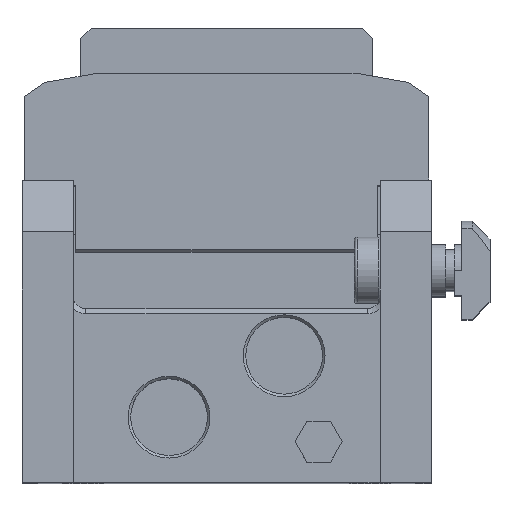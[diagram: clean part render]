
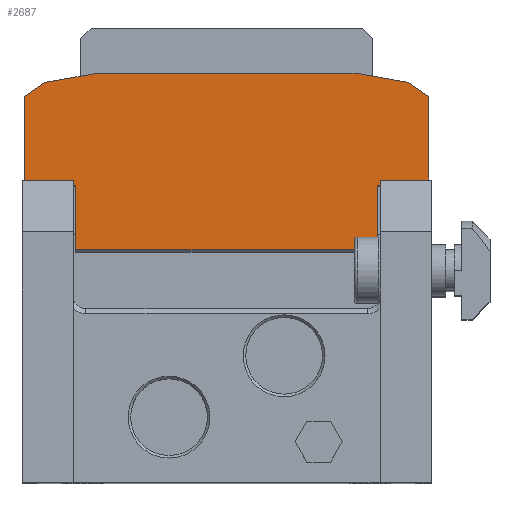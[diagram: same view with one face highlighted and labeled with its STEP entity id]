
A CAD part, top view. The second image highlights one B-rep face of the part: STEP entity #2687.
In plain terms, the highlighted planar face has unit normal (0, 0, 1).
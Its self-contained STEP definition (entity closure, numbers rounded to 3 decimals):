
#205 = DIRECTION ( 'NONE',  ( 1., 0., 0. ) ) ;
#317 = CARTESIAN_POINT ( 'NONE',  ( 39.5, 16.5, 118.2 ) ) ;
#2003 = VERTEX_POINT ( 'NONE', #23549 ) ;
#2078 = CARTESIAN_POINT ( 'NONE',  ( 25.5, 38.5, 118.2 ) ) ;
#2084 = VECTOR ( 'NONE', #9586, 1000. ) ;
#2237 = LINE ( 'NONE', #9608, #2084 ) ;
#2422 = CARTESIAN_POINT ( 'NONE',  ( -29.5, 16.5, 118.2 ) ) ;
#2424 = VECTOR ( 'NONE', #10666, 1000. ) ;
#2472 = LINE ( 'NONE', #10694, #2424 ) ;
#2687 = ADVANCED_FACE ( 'NONE', ( #9601 ), #28886, .F. ) ;
#2782 = EDGE_CURVE ( 'NONE', #24344, #15556, #18312, .T. ) ;
#3035 = VECTOR ( 'NONE', #4529, 1000. ) ;
#3138 = VERTEX_POINT ( 'NONE', #24832 ) ;
#3362 = DIRECTION ( 'NONE',  ( 1., 0., 0. ) ) ;
#3366 = CARTESIAN_POINT ( 'NONE',  ( 39.5, 16.5, 118.2 ) ) ;
#3559 = EDGE_CURVE ( 'NONE', #3138, #26692, #26061, .T. ) ;
#3910 = DIRECTION ( 'NONE',  ( -1., 0., 0. ) ) ;
#4141 = CARTESIAN_POINT ( 'NONE',  ( -25.5, 38.5, 118.2 ) ) ;
#4523 = CARTESIAN_POINT ( 'NONE',  ( -38.5, 3.5, 118.2 ) ) ;
#4529 = DIRECTION ( 'NONE',  ( 0.707, -0.707, 0. ) ) ;
#4847 = DIRECTION ( 'NONE',  ( 1., 0., 0. ) ) ;
#4851 = ORIENTED_EDGE ( 'NONE', *, *, #2782, .T. ) ;
#4892 = CARTESIAN_POINT ( 'NONE',  ( 39.5, 38.5, 118.2 ) ) ;
#5101 = AXIS2_PLACEMENT_3D ( 'NONE', #27372, #27159, #27059 ) ;
#5284 = DIRECTION ( 'NONE',  ( 0., -1., 0. ) ) ;
#5359 = CARTESIAN_POINT ( 'NONE',  ( -39.5, 38.5, 118.2 ) ) ;
#5400 = LINE ( 'NONE', #22324, #5487 ) ;
#5487 = VECTOR ( 'NONE', #22285, 1000. ) ;
#5581 = VERTEX_POINT ( 'NONE', #22080 ) ;
#5751 = ORIENTED_EDGE ( 'NONE', *, *, #11096, .T. ) ;
#5902 = CARTESIAN_POINT ( 'NONE',  ( -39.5, 3.5, 118.2 ) ) ;
#5981 = ORIENTED_EDGE ( 'NONE', *, *, #17939, .F. ) ;
#6174 = CARTESIAN_POINT ( 'NONE',  ( -29.5, 4., 118.2 ) ) ;
#6426 = EDGE_CURVE ( 'NONE', #24925, #20907, #20717, .T. ) ;
#6965 = VECTOR ( 'NONE', #22113, 1000. ) ;
#7333 = VERTEX_POINT ( 'NONE', #29000 ) ;
#7400 = EDGE_CURVE ( 'NONE', #3138, #16561, #16515, .T. ) ;
#7515 = EDGE_CURVE ( 'NONE', #5581, #28181, #16043, .T. ) ;
#7822 = VERTEX_POINT ( 'NONE', #24868 ) ;
#8054 = DIRECTION ( 'NONE',  ( 0., 1., 0. ) ) ;
#8454 = CARTESIAN_POINT ( 'NONE',  ( 25.5, 38.5, 118.2 ) ) ;
#8459 = CARTESIAN_POINT ( 'NONE',  ( -39.5, 4.5, 118.2 ) ) ;
#8757 = DIRECTION ( 'NONE',  ( -0.985, 0.174, 0. ) ) ;
#9096 = EDGE_CURVE ( 'NONE', #16561, #20907, #10181, .T. ) ;
#9586 = DIRECTION ( 'NONE',  ( 0.707, 0.707, 0. ) ) ;
#9601 = FACE_OUTER_BOUND ( 'NONE', #17004, .T. ) ;
#9608 = CARTESIAN_POINT ( 'NONE',  ( 38.5, 3.5, 118.2 ) ) ;
#9657 = ORIENTED_EDGE ( 'NONE', *, *, #10202, .T. ) ;
#9924 = VECTOR ( 'NONE', #18810, 1000. ) ;
#9937 = CARTESIAN_POINT ( 'NONE',  ( 39.5, 38.5, 118.2 ) ) ;
#10181 = LINE ( 'NONE', #3366, #10295 ) ;
#10202 = EDGE_CURVE ( 'NONE', #2003, #5581, #5400, .T. ) ;
#10295 = VECTOR ( 'NONE', #3362, 1000. ) ;
#10317 = CARTESIAN_POINT ( 'NONE',  ( 29.5, 3.5, 118.2 ) ) ;
#10666 = DIRECTION ( 'NONE',  ( -0.819, -0.574, 0. ) ) ;
#10675 = ORIENTED_EDGE ( 'NONE', *, *, #7515, .T. ) ;
#10694 = CARTESIAN_POINT ( 'NONE',  ( -39.5, 33.968, 118.2 ) ) ;
#10747 = CARTESIAN_POINT ( 'NONE',  ( 29.5, 4., 118.2 ) ) ;
#10978 = EDGE_CURVE ( 'NONE', #21779, #7822, #2472, .T. ) ;
#10999 = CARTESIAN_POINT ( 'NONE',  ( 37.5, 3.5, 118.2 ) ) ;
#11090 = VECTOR ( 'NONE', #5284, 1000. ) ;
#11096 = EDGE_CURVE ( 'NONE', #12893, #25196, #2237, .T. ) ;
#11571 = CARTESIAN_POINT ( 'NONE',  ( -38.5, 3.5, 118.2 ) ) ;
#11657 = VECTOR ( 'NONE', #8054, 1000. ) ;
#11810 = LINE ( 'NONE', #5359, #11090 ) ;
#12216 = CARTESIAN_POINT ( 'NONE',  ( -37.5, 3.5, 118.2 ) ) ;
#12447 = DIRECTION ( 'NONE',  ( 0., 1., 0. ) ) ;
#12893 = VERTEX_POINT ( 'NONE', #17545 ) ;
#13260 = CARTESIAN_POINT ( 'NONE',  ( -25.5, 38.5, 118.2 ) ) ;
#13380 = VERTEX_POINT ( 'NONE', #8459 ) ;
#13623 = EDGE_CURVE ( 'NONE', #13380, #26692, #26128, .T. ) ;
#14322 = EDGE_CURVE ( 'NONE', #20422, #15556, #24948, .T. ) ;
#14480 = CARTESIAN_POINT ( 'NONE',  ( 37.5, 3.5, 118.2 ) ) ;
#14666 = EDGE_CURVE ( 'NONE', #24925, #7333, #24961, .T. ) ;
#14856 = EDGE_CURVE ( 'NONE', #7822, #13380, #11810, .T. ) ;
#15208 = CARTESIAN_POINT ( 'NONE',  ( 29.5, 16.5, 118.2 ) ) ;
#15446 = ORIENTED_EDGE ( 'NONE', *, *, #14322, .F. ) ;
#15515 = CARTESIAN_POINT ( 'NONE',  ( 39.5, 3.5, 118.2 ) ) ;
#15556 = VERTEX_POINT ( 'NONE', #26073 ) ;
#15839 = ORIENTED_EDGE ( 'NONE', *, *, #28669, .F. ) ;
#15881 = VECTOR ( 'NONE', #205, 1000. ) ;
#16043 = LINE ( 'NONE', #2078, #16254 ) ;
#16254 = VECTOR ( 'NONE', #8757, 1000. ) ;
#16515 = LINE ( 'NONE', #12216, #16551 ) ;
#16551 = VECTOR ( 'NONE', #12447, 1000. ) ;
#16561 = VERTEX_POINT ( 'NONE', #19706 ) ;
#17004 = EDGE_LOOP ( 'NONE', ( #15839, #9657, #10675, #26635, #23849, #28323, #22480, #24857, #19948, #22930, #25496, #19374, #21211, #18257, #4851, #15446, #5981, #5751 ) ) ;
#17420 = VECTOR ( 'NONE', #23057, 1000. ) ;
#17424 = EDGE_CURVE ( 'NONE', #23488, #28181, #25290, .T. ) ;
#17545 = CARTESIAN_POINT ( 'NONE',  ( 38.5, 3.5, 118.2 ) ) ;
#17939 = EDGE_CURVE ( 'NONE', #12893, #20422, #20993, .T. ) ;
#18257 = ORIENTED_EDGE ( 'NONE', *, *, #21168, .T. ) ;
#18312 = LINE ( 'NONE', #317, #15881 ) ;
#18810 = DIRECTION ( 'NONE',  ( 0., -1., 0. ) ) ;
#18820 = LINE ( 'NONE', #13260, #6965 ) ;
#19374 = ORIENTED_EDGE ( 'NONE', *, *, #6426, .F. ) ;
#19706 = CARTESIAN_POINT ( 'NONE',  ( -37.5, 16.5, 118.2 ) ) ;
#19948 = ORIENTED_EDGE ( 'NONE', *, *, #3559, .F. ) ;
#20422 = VERTEX_POINT ( 'NONE', #10999 ) ;
#20694 = VECTOR ( 'NONE', #21027, 1000. ) ;
#20717 = LINE ( 'NONE', #23837, #20694 ) ;
#20907 = VERTEX_POINT ( 'NONE', #2422 ) ;
#20993 = LINE ( 'NONE', #15515, #26474 ) ;
#21027 = DIRECTION ( 'NONE',  ( 0., 1., 0. ) ) ;
#21118 = CARTESIAN_POINT ( 'NONE',  ( -35.561, 36.726, 118.2 ) ) ;
#21168 = EDGE_CURVE ( 'NONE', #7333, #24344, #28634, .T. ) ;
#21211 = ORIENTED_EDGE ( 'NONE', *, *, #14666, .T. ) ;
#21779 = VERTEX_POINT ( 'NONE', #21118 ) ;
#21812 = VECTOR ( 'NONE', #22677, 1000. ) ;
#22080 = CARTESIAN_POINT ( 'NONE',  ( 35.561, 36.726, 118.2 ) ) ;
#22113 = DIRECTION ( 'NONE',  ( -0.985, -0.174, 0. ) ) ;
#22285 = DIRECTION ( 'NONE',  ( -0.819, 0.574, 0. ) ) ;
#22324 = CARTESIAN_POINT ( 'NONE',  ( 39.5, 33.968, 118.2 ) ) ;
#22480 = ORIENTED_EDGE ( 'NONE', *, *, #14856, .T. ) ;
#22677 = DIRECTION ( 'NONE',  ( 0., 1., 0. ) ) ;
#22930 = ORIENTED_EDGE ( 'NONE', *, *, #7400, .T. ) ;
#23057 = DIRECTION ( 'NONE',  ( -1., 0., 0. ) ) ;
#23488 = VERTEX_POINT ( 'NONE', #4141 ) ;
#23502 = EDGE_CURVE ( 'NONE', #23488, #21779, #18820, .T. ) ;
#23549 = CARTESIAN_POINT ( 'NONE',  ( 39.5, 33.968, 118.2 ) ) ;
#23837 = CARTESIAN_POINT ( 'NONE',  ( -29.5, 3.5, 118.2 ) ) ;
#23849 = ORIENTED_EDGE ( 'NONE', *, *, #23502, .T. ) ;
#24344 = VERTEX_POINT ( 'NONE', #15208 ) ;
#24536 = VECTOR ( 'NONE', #4847, 1000. ) ;
#24574 = VECTOR ( 'NONE', #27015, 1000. ) ;
#24832 = CARTESIAN_POINT ( 'NONE',  ( -37.5, 3.5, 118.2 ) ) ;
#24857 = ORIENTED_EDGE ( 'NONE', *, *, #13623, .T. ) ;
#24868 = CARTESIAN_POINT ( 'NONE',  ( -39.5, 33.968, 118.2 ) ) ;
#24925 = VERTEX_POINT ( 'NONE', #6174 ) ;
#24948 = LINE ( 'NONE', #14480, #21812 ) ;
#24961 = LINE ( 'NONE', #10747, #24574 ) ;
#25196 = VERTEX_POINT ( 'NONE', #25327 ) ;
#25290 = LINE ( 'NONE', #4892, #24536 ) ;
#25327 = CARTESIAN_POINT ( 'NONE',  ( 39.5, 4.5, 118.2 ) ) ;
#25496 = ORIENTED_EDGE ( 'NONE', *, *, #9096, .T. ) ;
#26061 = LINE ( 'NONE', #5902, #17420 ) ;
#26073 = CARTESIAN_POINT ( 'NONE',  ( 37.5, 16.5, 118.2 ) ) ;
#26128 = LINE ( 'NONE', #4523, #3035 ) ;
#26474 = VECTOR ( 'NONE', #3910, 1000. ) ;
#26635 = ORIENTED_EDGE ( 'NONE', *, *, #17424, .F. ) ;
#26692 = VERTEX_POINT ( 'NONE', #11571 ) ;
#27015 = DIRECTION ( 'NONE',  ( 1., 0., 0. ) ) ;
#27059 = DIRECTION ( 'NONE',  ( -1., 0., 0. ) ) ;
#27159 = DIRECTION ( 'NONE',  ( 0., 0., -1. ) ) ;
#27372 = CARTESIAN_POINT ( 'NONE',  ( 39.5, 38.5, 118.2 ) ) ;
#27594 = LINE ( 'NONE', #9937, #9924 ) ;
#28181 = VERTEX_POINT ( 'NONE', #8454 ) ;
#28323 = ORIENTED_EDGE ( 'NONE', *, *, #10978, .T. ) ;
#28634 = LINE ( 'NONE', #10317, #11657 ) ;
#28669 = EDGE_CURVE ( 'NONE', #2003, #25196, #27594, .T. ) ;
#28886 = PLANE ( 'NONE',  #5101 ) ;
#29000 = CARTESIAN_POINT ( 'NONE',  ( 29.5, 4., 118.2 ) ) ;
